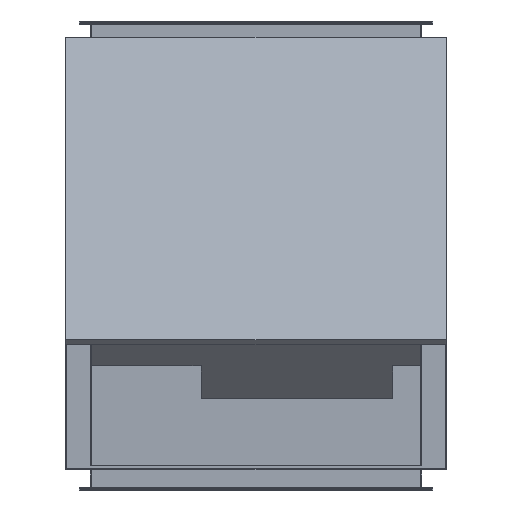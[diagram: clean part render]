
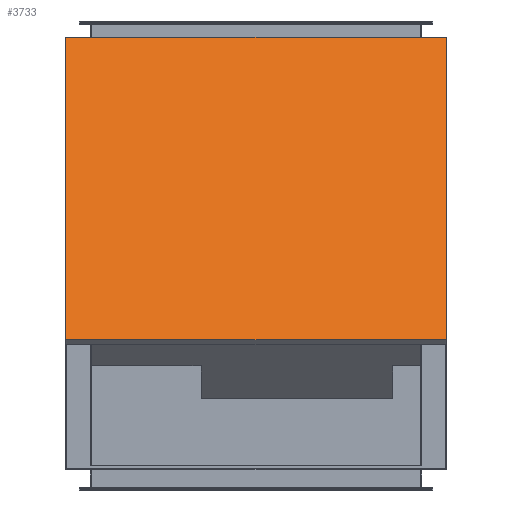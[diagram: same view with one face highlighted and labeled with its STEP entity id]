
A CAD part, front view. The second image highlights one B-rep face of the part: STEP entity #3733.
In plain terms, the highlighted planar face has unit normal (0, -0.707, 0.707).
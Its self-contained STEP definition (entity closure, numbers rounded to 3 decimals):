
#250=LINE('',#6194,#659);
#253=LINE('',#6200,#662);
#256=LINE('',#6206,#665);
#259=LINE('',#6210,#668);
#659=VECTOR('',#4584,10.);
#662=VECTOR('',#4589,10.);
#665=VECTOR('',#4594,10.);
#668=VECTOR('',#4599,10.);
#973=PLANE('',#3985);
#1241=FACE_OUTER_BOUND('',#1461,.T.);
#1461=EDGE_LOOP('',(#3084,#3085,#3086,#3087));
#1890=VERTEX_POINT('',#6191);
#1891=VERTEX_POINT('',#6193);
#1893=VERTEX_POINT('',#6199);
#1895=VERTEX_POINT('',#6205);
#2315=EDGE_CURVE('',#1891,#1890,#250,.T.);
#2318=EDGE_CURVE('',#1893,#1891,#253,.T.);
#2321=EDGE_CURVE('',#1895,#1893,#256,.T.);
#2324=EDGE_CURVE('',#1890,#1895,#259,.T.);
#3084=ORIENTED_EDGE('',*,*,#2324,.T.);
#3085=ORIENTED_EDGE('',*,*,#2321,.T.);
#3086=ORIENTED_EDGE('',*,*,#2318,.T.);
#3087=ORIENTED_EDGE('',*,*,#2315,.T.);
#3733=ADVANCED_FACE('',(#1241),#973,.T.);
#3985=AXIS2_PLACEMENT_3D('',#6212,#4602,#4603);
#4584=DIRECTION('',(0.,0.707,0.707));
#4589=DIRECTION('',(1.,0.,0.));
#4594=DIRECTION('',(0.,-0.707,-0.707));
#4599=DIRECTION('',(-1.,0.,0.));
#4602=DIRECTION('center_axis',(0.,-0.707,0.707));
#4603=DIRECTION('ref_axis',(1.,0.,0.));
#6191=CARTESIAN_POINT('',(404.,-291.107,464.607));
#6193=CARTESIAN_POINT('',(404.,-933.16,-177.446));
#6194=CARTESIAN_POINT('',(404.,-291.107,464.607));
#6199=CARTESIAN_POINT('',(-404.,-933.16,-177.446));
#6200=CARTESIAN_POINT('',(404.,-933.16,-177.446));
#6205=CARTESIAN_POINT('',(-404.,-291.107,464.607));
#6206=CARTESIAN_POINT('',(-404.,-933.16,-177.446));
#6210=CARTESIAN_POINT('',(-404.,-291.107,464.607));
#6212=CARTESIAN_POINT('Origin',(0.,-612.133,143.58));
